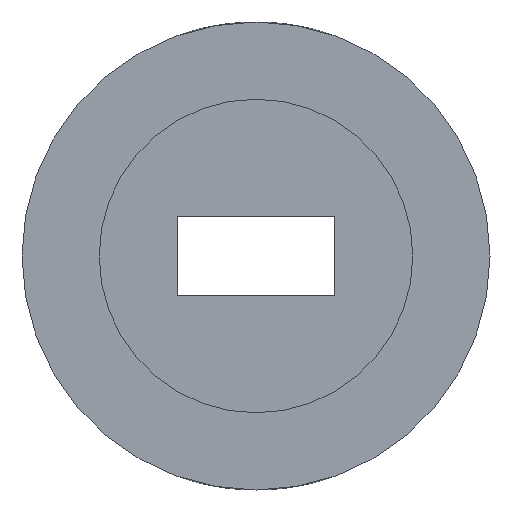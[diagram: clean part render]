
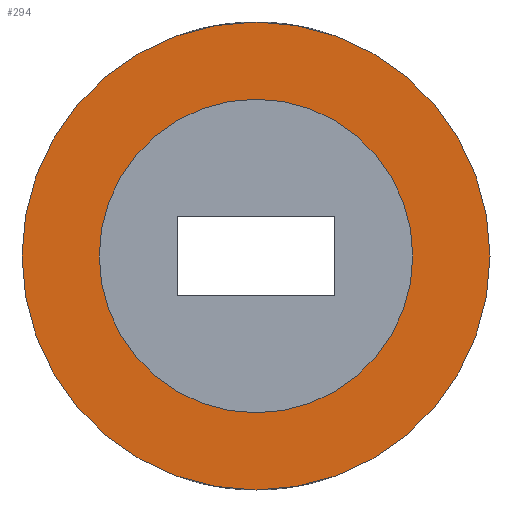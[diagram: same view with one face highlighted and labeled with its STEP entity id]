
A CAD part, front view. The second image highlights one B-rep face of the part: STEP entity #294.
In plain terms, the highlighted planar face has unit normal (0, -1, 0).
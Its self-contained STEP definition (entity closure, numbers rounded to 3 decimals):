
#21=PLANE('',#346);
#28=FACE_BOUND('',#115,.T.);
#93=FACE_OUTER_BOUND('',#114,.T.);
#114=EDGE_LOOP('',(#276));
#115=EDGE_LOOP('',(#277));
#123=CIRCLE('',#328,15.);
#129=CIRCLE('',#345,10.05);
#136=VERTEX_POINT('',#443);
#157=VERTEX_POINT('',#641);
#167=EDGE_CURVE('',#136,#136,#123,.T.);
#197=EDGE_CURVE('',#157,#157,#129,.T.);
#276=ORIENTED_EDGE('',*,*,#167,.F.);
#277=ORIENTED_EDGE('',*,*,#197,.F.);
#294=ADVANCED_FACE('',(#93,#28),#21,.F.);
#328=AXIS2_PLACEMENT_3D('',#445,#371,#372);
#345=AXIS2_PLACEMENT_3D('',#643,#421,#422);
#346=AXIS2_PLACEMENT_3D('',#644,#423,#424);
#371=DIRECTION('center_axis',(0.,1.,0.));
#372=DIRECTION('ref_axis',(-1.,0.,0.));
#421=DIRECTION('center_axis',(0.,-1.,0.));
#422=DIRECTION('ref_axis',(1.,0.,0.));
#423=DIRECTION('center_axis',(0.,1.,0.));
#424=DIRECTION('ref_axis',(0.,0.,1.));
#443=CARTESIAN_POINT('',(15.,0.,0.));
#445=CARTESIAN_POINT('Origin',(0.,0.,0.));
#641=CARTESIAN_POINT('',(-10.05,0.,0.));
#643=CARTESIAN_POINT('Origin',(0.,0.,0.));
#644=CARTESIAN_POINT('Origin',(0.,0.,0.));
